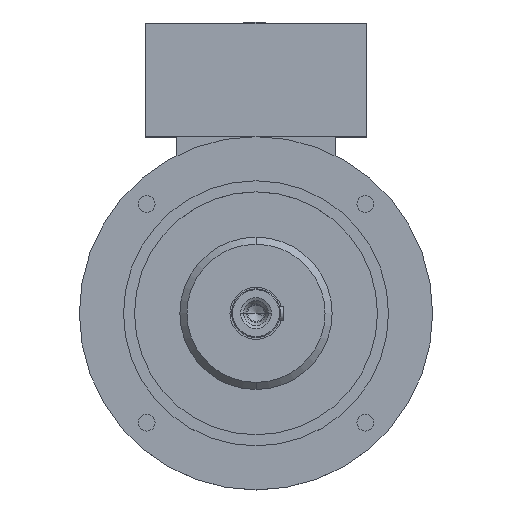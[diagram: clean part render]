
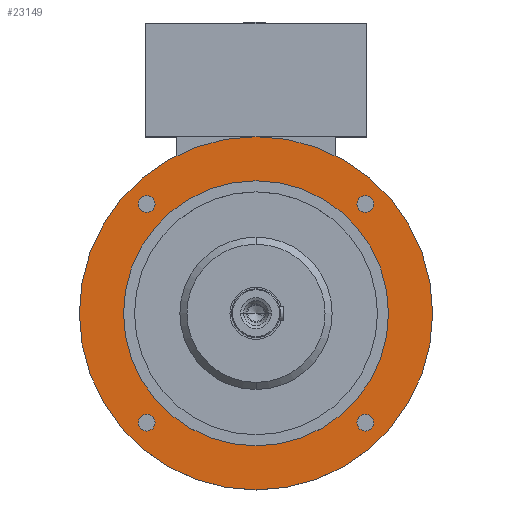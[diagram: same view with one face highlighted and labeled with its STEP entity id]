
A CAD part, top view. The second image highlights one B-rep face of the part: STEP entity #23149.
In plain terms, the highlighted planar face has unit normal (0, 0, 1).
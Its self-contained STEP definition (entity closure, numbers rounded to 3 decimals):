
#259 = EDGE_LOOP ( 'NONE', ( #3424, #2552 ) ) ;
#265 = CARTESIAN_POINT ( 'NONE',  ( 123.744, 123.744, 285.5 ) ) ;
#655 = CIRCLE ( 'NONE', #15713, 9.5 ) ;
#670 = DIRECTION ( 'NONE',  ( 0., 0., 1. ) ) ;
#1020 = EDGE_LOOP ( 'NONE', ( #10766, #3430 ) ) ;
#1197 = CARTESIAN_POINT ( 'NONE',  ( 0., 0., 285.5 ) ) ;
#1848 = CARTESIAN_POINT ( 'NONE',  ( -123.744, 123.744, 285.5 ) ) ;
#1876 = AXIS2_PLACEMENT_3D ( 'NONE', #16851, #24657, #24739 ) ;
#2188 = FACE_BOUND ( 'NONE', #259, .T. ) ;
#2296 = EDGE_CURVE ( 'NONE', #4971, #23953, #23089, .T. ) ;
#2369 = CARTESIAN_POINT ( 'NONE',  ( 123.744, 123.744, 285.5 ) ) ;
#2425 = AXIS2_PLACEMENT_3D ( 'NONE', #10481, #18172, #6764 ) ;
#2552 = ORIENTED_EDGE ( 'NONE', *, *, #10185, .T. ) ;
#2756 = CARTESIAN_POINT ( 'NONE',  ( 200., 0., 285.5 ) ) ;
#2841 = DIRECTION ( 'NONE',  ( -1., 0., 0. ) ) ;
#2848 = CARTESIAN_POINT ( 'NONE',  ( -123.744, -123.744, 285.5 ) ) ;
#3020 = DIRECTION ( 'NONE',  ( 0., 0., 1. ) ) ;
#3424 = ORIENTED_EDGE ( 'NONE', *, *, #13125, .T. ) ;
#3430 = ORIENTED_EDGE ( 'NONE', *, *, #19954, .T. ) ;
#3544 = DIRECTION ( 'NONE',  ( 1., 0., 0. ) ) ;
#3814 = ORIENTED_EDGE ( 'NONE', *, *, #5432, .T. ) ;
#3834 = CARTESIAN_POINT ( 'NONE',  ( 150., 0., 285.5 ) ) ;
#3928 = AXIS2_PLACEMENT_3D ( 'NONE', #1848, #11175, #5470 ) ;
#4524 = PLANE ( 'NONE',  #6607 ) ;
#4600 = DIRECTION ( 'NONE',  ( 0., 0., -1. ) ) ;
#4971 = VERTEX_POINT ( 'NONE', #21386 ) ;
#5086 = EDGE_CURVE ( 'NONE', #8730, #18544, #11537, .T. ) ;
#5410 = AXIS2_PLACEMENT_3D ( 'NONE', #265, #7778, #17356 ) ;
#5432 = EDGE_CURVE ( 'NONE', #16434, #17160, #17204, .T. ) ;
#5439 = CARTESIAN_POINT ( 'NONE',  ( -114.244, 123.744, 285.5 ) ) ;
#5470 = DIRECTION ( 'NONE',  ( 1., 0., 0. ) ) ;
#5875 = ORIENTED_EDGE ( 'NONE', *, *, #5086, .T. ) ;
#5936 = AXIS2_PLACEMENT_3D ( 'NONE', #16071, #4600, #18081 ) ;
#6383 = FACE_OUTER_BOUND ( 'NONE', #8556, .T. ) ;
#6408 = CARTESIAN_POINT ( 'NONE',  ( -200., 0., 285.5 ) ) ;
#6411 = VERTEX_POINT ( 'NONE', #5439 ) ;
#6607 = AXIS2_PLACEMENT_3D ( 'NONE', #21677, #670, #16161 ) ;
#6685 = CARTESIAN_POINT ( 'NONE',  ( 133.244, 123.744, 285.5 ) ) ;
#6764 = DIRECTION ( 'NONE',  ( -1., 0., 0. ) ) ;
#6875 = AXIS2_PLACEMENT_3D ( 'NONE', #1197, #3020, #2841 ) ;
#6997 = VERTEX_POINT ( 'NONE', #6685 ) ;
#7466 = EDGE_LOOP ( 'NONE', ( #3814, #13504 ) ) ;
#7778 = DIRECTION ( 'NONE',  ( 0., 0., -1. ) ) ;
#7932 = DIRECTION ( 'NONE',  ( 0., 0., -1. ) ) ;
#8039 = CIRCLE ( 'NONE', #3928, 9.5 ) ;
#8556 = EDGE_LOOP ( 'NONE', ( #17752, #5875 ) ) ;
#8730 = VERTEX_POINT ( 'NONE', #2756 ) ;
#9255 = CARTESIAN_POINT ( 'NONE',  ( -133.244, 123.744, 285.5 ) ) ;
#9327 = AXIS2_PLACEMENT_3D ( 'NONE', #14316, #16250, #18340 ) ;
#9432 = VERTEX_POINT ( 'NONE', #13053 ) ;
#9901 = VERTEX_POINT ( 'NONE', #9255 ) ;
#9983 = FACE_BOUND ( 'NONE', #7466, .T. ) ;
#10161 = CARTESIAN_POINT ( 'NONE',  ( -150., 0., 285.5 ) ) ;
#10185 = EDGE_CURVE ( 'NONE', #9432, #6997, #10519, .T. ) ;
#10425 = AXIS2_PLACEMENT_3D ( 'NONE', #23159, #7932, #11821 ) ;
#10481 = CARTESIAN_POINT ( 'NONE',  ( 0., 0., 285.5 ) ) ;
#10519 = CIRCLE ( 'NONE', #23207, 9.5 ) ;
#10766 = ORIENTED_EDGE ( 'NONE', *, *, #11490, .T. ) ;
#11034 = DIRECTION ( 'NONE',  ( 0., 0., -1. ) ) ;
#11175 = DIRECTION ( 'NONE',  ( 0., 0., -1. ) ) ;
#11239 = CARTESIAN_POINT ( 'NONE',  ( -114.244, -123.744, 285.5 ) ) ;
#11490 = EDGE_CURVE ( 'NONE', #6411, #9901, #8039, .T. ) ;
#11537 = CIRCLE ( 'NONE', #6875, 200. ) ;
#11821 = DIRECTION ( 'NONE',  ( 1., 0., 0. ) ) ;
#11928 = VERTEX_POINT ( 'NONE', #3834 ) ;
#11967 = CIRCLE ( 'NONE', #2425, 150. ) ;
#12393 = FACE_BOUND ( 'NONE', #15547, .T. ) ;
#13053 = CARTESIAN_POINT ( 'NONE',  ( 114.244, 123.744, 285.5 ) ) ;
#13125 = EDGE_CURVE ( 'NONE', #6997, #9432, #17856, .T. ) ;
#13363 = EDGE_CURVE ( 'NONE', #18544, #8730, #18739, .T. ) ;
#13433 = ORIENTED_EDGE ( 'NONE', *, *, #2296, .T. ) ;
#13504 = ORIENTED_EDGE ( 'NONE', *, *, #14507, .T. ) ;
#13588 = EDGE_CURVE ( 'NONE', #23953, #4971, #23279, .T. ) ;
#14316 = CARTESIAN_POINT ( 'NONE',  ( 0., 0., 285.5 ) ) ;
#14507 = EDGE_CURVE ( 'NONE', #17160, #16434, #655, .T. ) ;
#14785 = CARTESIAN_POINT ( 'NONE',  ( 133.244, -123.744, 285.5 ) ) ;
#14858 = AXIS2_PLACEMENT_3D ( 'NONE', #18884, #11034, #3544 ) ;
#15547 = EDGE_LOOP ( 'NONE', ( #21441, #13433 ) ) ;
#15713 = AXIS2_PLACEMENT_3D ( 'NONE', #2848, #17947, #21794 ) ;
#15782 = DIRECTION ( 'NONE',  ( 1., 0., 0. ) ) ;
#16071 = CARTESIAN_POINT ( 'NONE',  ( -123.744, -123.744, 285.5 ) ) ;
#16138 = EDGE_CURVE ( 'NONE', #11928, #20280, #11967, .T. ) ;
#16161 = DIRECTION ( 'NONE',  ( 1., 0., 0. ) ) ;
#16250 = DIRECTION ( 'NONE',  ( 0., 0., -1. ) ) ;
#16337 = DIRECTION ( 'NONE',  ( -1., 0., 0. ) ) ;
#16434 = VERTEX_POINT ( 'NONE', #11239 ) ;
#16851 = CARTESIAN_POINT ( 'NONE',  ( 123.744, -123.744, 285.5 ) ) ;
#17160 = VERTEX_POINT ( 'NONE', #22776 ) ;
#17204 = CIRCLE ( 'NONE', #5936, 9.5 ) ;
#17356 = DIRECTION ( 'NONE',  ( 1., 0., 0. ) ) ;
#17553 = CIRCLE ( 'NONE', #9327, 150. ) ;
#17752 = ORIENTED_EDGE ( 'NONE', *, *, #13363, .T. ) ;
#17856 = CIRCLE ( 'NONE', #5410, 9.5 ) ;
#17947 = DIRECTION ( 'NONE',  ( 0., 0., -1. ) ) ;
#18081 = DIRECTION ( 'NONE',  ( 1., 0., 0. ) ) ;
#18172 = DIRECTION ( 'NONE',  ( 0., 0., -1. ) ) ;
#18340 = DIRECTION ( 'NONE',  ( -1., 0., 0. ) ) ;
#18378 = CIRCLE ( 'NONE', #10425, 9.5 ) ;
#18544 = VERTEX_POINT ( 'NONE', #6408 ) ;
#18683 = FACE_BOUND ( 'NONE', #1020, .T. ) ;
#18739 = CIRCLE ( 'NONE', #23086, 200. ) ;
#18884 = CARTESIAN_POINT ( 'NONE',  ( 123.744, -123.744, 285.5 ) ) ;
#19711 = DIRECTION ( 'NONE',  ( 0., 0., -1. ) ) ;
#19865 = FACE_BOUND ( 'NONE', #21003, .T. ) ;
#19954 = EDGE_CURVE ( 'NONE', #9901, #6411, #18378, .T. ) ;
#20280 = VERTEX_POINT ( 'NONE', #10161 ) ;
#21003 = EDGE_LOOP ( 'NONE', ( #21498, #22398 ) ) ;
#21073 = EDGE_CURVE ( 'NONE', #20280, #11928, #17553, .T. ) ;
#21386 = CARTESIAN_POINT ( 'NONE',  ( 114.244, -123.744, 285.5 ) ) ;
#21441 = ORIENTED_EDGE ( 'NONE', *, *, #13588, .T. ) ;
#21498 = ORIENTED_EDGE ( 'NONE', *, *, #21073, .T. ) ;
#21677 = CARTESIAN_POINT ( 'NONE',  ( 0., 200., 285.5 ) ) ;
#21794 = DIRECTION ( 'NONE',  ( 1., 0., 0. ) ) ;
#21927 = CARTESIAN_POINT ( 'NONE',  ( 0., 0., 285.5 ) ) ;
#22398 = ORIENTED_EDGE ( 'NONE', *, *, #16138, .T. ) ;
#22776 = CARTESIAN_POINT ( 'NONE',  ( -133.244, -123.744, 285.5 ) ) ;
#23086 = AXIS2_PLACEMENT_3D ( 'NONE', #21927, #23758, #16337 ) ;
#23089 = CIRCLE ( 'NONE', #14858, 9.5 ) ;
#23149 = ADVANCED_FACE ( 'NONE', ( #6383, #19865, #12393, #2188, #18683, #9983 ), #4524, .T. ) ;
#23159 = CARTESIAN_POINT ( 'NONE',  ( -123.744, 123.744, 285.5 ) ) ;
#23207 = AXIS2_PLACEMENT_3D ( 'NONE', #2369, #19711, #15782 ) ;
#23279 = CIRCLE ( 'NONE', #1876, 9.5 ) ;
#23758 = DIRECTION ( 'NONE',  ( 0., 0., 1. ) ) ;
#23953 = VERTEX_POINT ( 'NONE', #14785 ) ;
#24657 = DIRECTION ( 'NONE',  ( 0., 0., -1. ) ) ;
#24739 = DIRECTION ( 'NONE',  ( 1., 0., 0. ) ) ;
